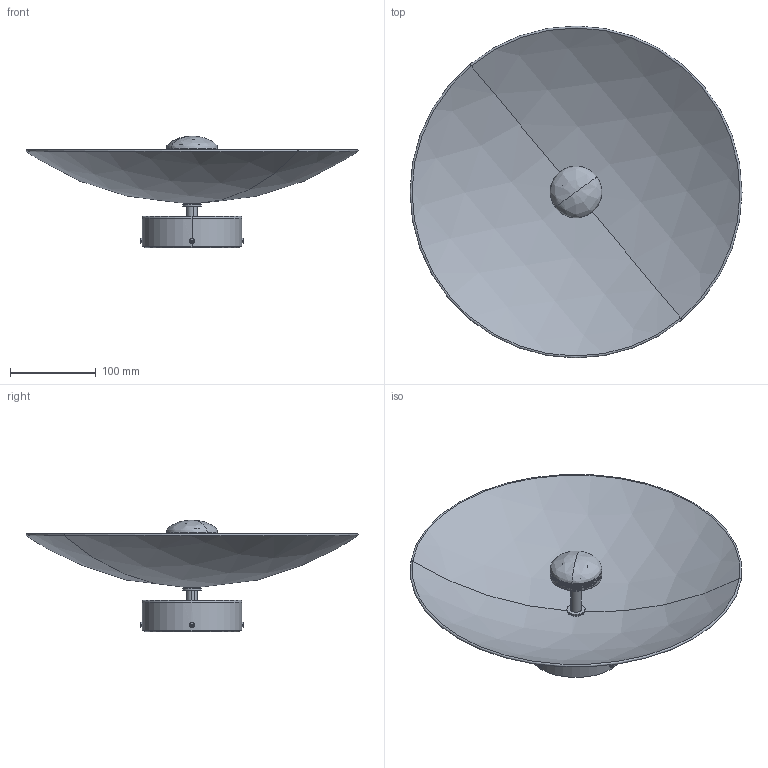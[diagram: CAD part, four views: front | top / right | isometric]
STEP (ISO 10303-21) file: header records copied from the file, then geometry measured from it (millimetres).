
FILE_DESCRIPTION (( 'STEP AP203' ), '1' );
FILE_NAME ('CTO-07-032-01.STEP', '2020-09-08T15:16:17', ( '' ), ( '' ), 'SwSTEP 2.0', 'SolidWorks 2020', '' );
FILE_SCHEMA (( 'CONFIG_CONTROL_DESIGN' ));
Length unit declared in the file: millimetre
Products named in the file (1): CTO-07-032-01
Bounding box: 386.29 x 386.29 x 129.8 mm (x, y, z)
Volume: 519975.2 mm3; surface area: 382160.4 mm2
Topology: 36 solids, 36 shells, 1407 faces, 3714 edges, 2435 vertices
Faces by surface type: cylinder 731, plane 503, bspline 90, cone 38, torus 35, sphere 10
Entity records: 91284 total; most frequent: CARTESIAN_POINT 58824, ORIENTED_EDGE 7416, DIRECTION 5950, EDGE_CURVE 3708, VERTEX_POINT 2435, AXIS2_PLACEMENT_3D 2120, LINE 1710, VECTOR 1710
